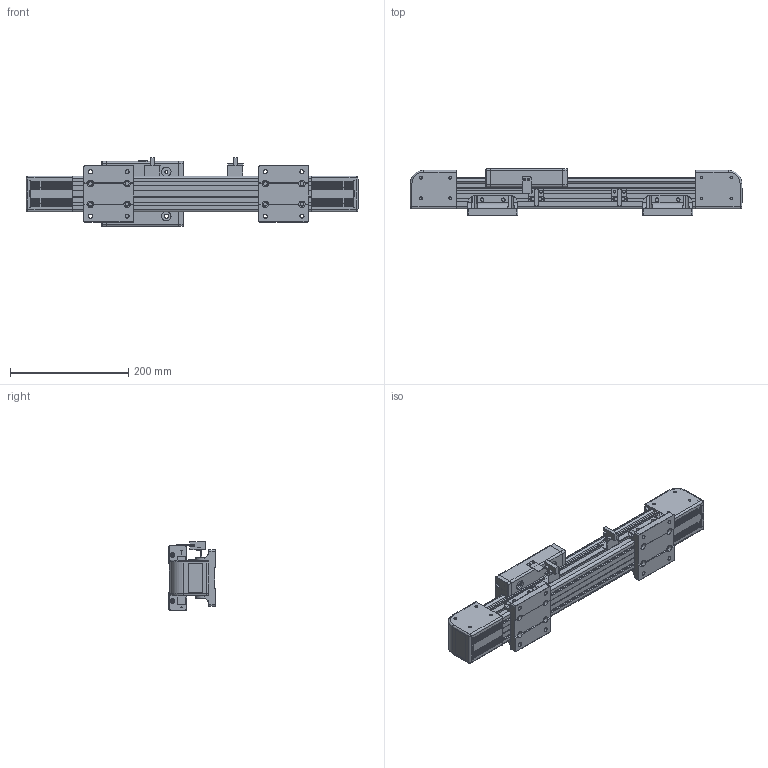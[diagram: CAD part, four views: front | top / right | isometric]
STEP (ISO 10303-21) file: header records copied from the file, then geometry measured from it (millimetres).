
FILE_DESCRIPTION (( 'STEP AP214' ), '1' );
FILE_NAME ('CF60-D-250-FW.STEP', '2020-01-15T07:13:28', ( '微软用户' ), ( '微软中国' ), 'SwSTEP 2.0', 'SolidWorks 2016', '' );
FILE_SCHEMA (( 'AUTOMOTIVE_DESIGN' ));
Length unit declared in the file: millimetre
Products named in the file (14): 60肮祭湍倰第-250; 菁釱; P60同步带导轨润滑棉安装块右; P60同步带导轨润滑棉安装块; P60肮祭湍坶諶; p60同步带滑块最终版; P60粣創釱傷裔; P60同步带轴承座初稿; CF60-D-250-FW; 嫖萇羲壽; 嫖萇羲壽嘐隅え; P60肮祭湍嫖萇結啣; 8MM嫖粣絳寢-250
Assembly tree (21 placements, depth 3):
  CF60-D-250-FW
    P60同步带轴承座初稿  x2
    P60粣創釱傷裔  x2
    p60同步带滑块最终版
    P60肮祭湍坶諶  x2
    P60同步带导轨润滑棉安装块  x2
    P60同步带导轨润滑棉安装块右  x2
    菁釱  x2
    60肮祭湍倰第-250
    8MM嫖粣絳寢-250  x2
    P60肮祭湍嫖萇結啣
    嫖萇羲壽  x2
      嫖萇羲壽嘐隅え
      嫖萇羲壽
Bounding box: 561.6 x 78.7 x 116.6 mm (x, y, z)
Volume: 1466199 mm3; surface area: 495400.6 mm2
Topology: 21 solids, 21 shells, 1402 faces, 3788 edges, 2464 vertices
Faces by surface type: cylinder 632, plane 606, torus 76, bspline 36, cone 32, sphere 20
Entity records: 30388 total; most frequent: CARTESIAN_POINT 7803, DIRECTION 4642, ORIENTED_EDGE 4584, EDGE_CURVE 2292, AXIS2_PLACEMENT_3D 1653, VERTEX_POINT 1506, VECTOR 1336, LINE 1336
